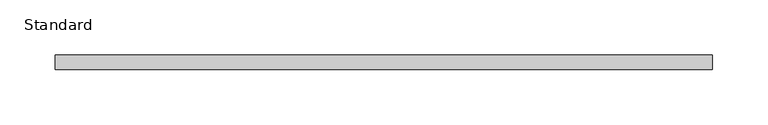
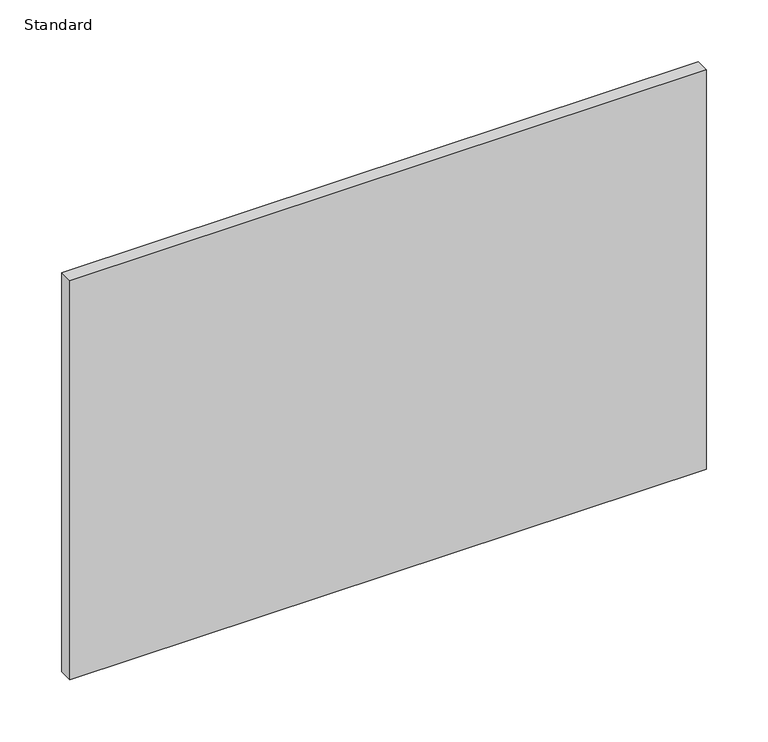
"""IFC4 building model written with IfcOpenShell, lengths in millimetres: furniture geometry, X_Locker-Duracube-Door : Standard."""

from ifc_helpers import new_model, si_unit, frame, origin, place, context, project, spatial, polyline, outline, extrude, source, transform, mapped, element, save


def standard_d1edd0f1(model_context):
    return source(origin(), model_context, "Body", "SweptSolid", [
        extrude(outline(polyline([(341.7003264, -13.0), (-252.2996736, -13.0), (-252.2996736, 0.0), (341.7003264, 0.0), (341.7003264, -13.0)])), frame((0.0, 0.0, 3.0), z_axis=(0.0, 0.0, 1.0), x_axis=(1.0, 0.0, 0.0)), (0.0, 0.0, 1.0), 394.0),
    ])


if __name__ == "__main__":
    model = new_model("IFC4")
    model_context = context("Model", 3, world=origin())
    ifc_project = project(units=[si_unit("LENGTHUNIT", "METRE", prefix="MILLI")], contexts=[model_context])
    site = spatial("IfcSite", under=ifc_project)
    building = spatial("IfcBuilding", under=site)
    placement = place(None, origin())
    standard_shape = standard_d1edd0f1(model_context)
    element("IfcFurniture", 1, ObjectType="X_Locker-Duracube-Door : Standard", at=placement, inside=building, context=model_context, shape_type="MappedRepresentation", body=[
        mapped(standard_shape, transform((0.0, 0.0, 0.0), x_axis=(1.0, 0.0, 0.0), y_axis=(0.0, 1.0, 0.0), z_axis=(0.0, 0.0, 1.0))),
    ])
    save(model, "model.ifc")
